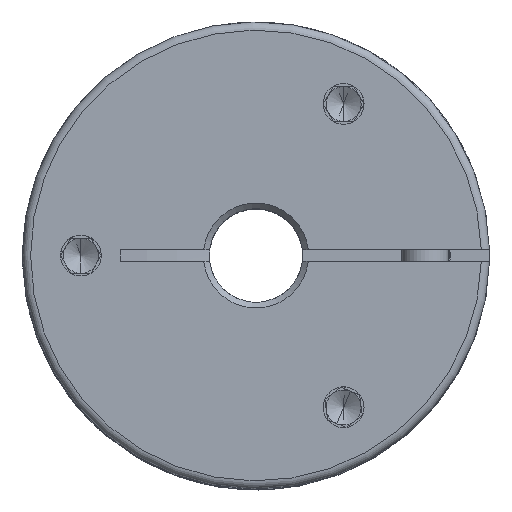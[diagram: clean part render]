
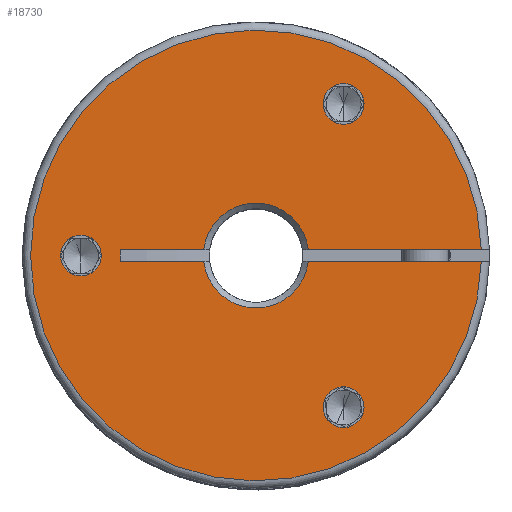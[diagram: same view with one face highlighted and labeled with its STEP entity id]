
A CAD part, top view. The second image highlights one B-rep face of the part: STEP entity #18730.
In plain terms, the highlighted planar face has unit normal (0, 0, 1).
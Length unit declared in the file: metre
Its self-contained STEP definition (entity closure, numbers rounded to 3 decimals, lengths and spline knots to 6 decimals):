
#302 = DIRECTION ( 'NONE',  ( 0., 0., 1. ) ) ;
#609 = AXIS2_PLACEMENT_3D ( 'NONE', #3647, #16326, #23895 ) ;
#954 = EDGE_LOOP ( 'NONE', ( #8934, #19574 ) ) ;
#1744 = EDGE_CURVE ( 'NONE', #8140, #3447, #25299, .T. ) ;
#1774 = DIRECTION ( 'NONE',  ( 1., 0., 0. ) ) ;
#1926 = CARTESIAN_POINT ( 'NONE',  ( -0.01325, 0., 0.02345 ) ) ;
#2192 = DIRECTION ( 'NONE',  ( -1., 0., 0. ) ) ;
#2355 = VERTEX_POINT ( 'NONE', #8456 ) ;
#2649 = DIRECTION ( 'NONE',  ( -1., 0., 0. ) ) ;
#2746 = VERTEX_POINT ( 'NONE', #23649 ) ;
#2786 = VERTEX_POINT ( 'NONE', #28739 ) ;
#2940 = AXIS2_PLACEMENT_3D ( 'NONE', #21262, #20936, #30941 ) ;
#2983 = VECTOR ( 'NONE', #2192, 1. ) ;
#3081 = CIRCLE ( 'NONE', #26603, 0.0045 ) ;
#3186 = EDGE_CURVE ( 'NONE', #7943, #3482, #5095, .T. ) ;
#3447 = VERTEX_POINT ( 'NONE', #11443 ) ;
#3482 = VERTEX_POINT ( 'NONE', #4003 ) ;
#3556 = LINE ( 'NONE', #11328, #10323 ) ;
#3647 = CARTESIAN_POINT ( 'NONE',  ( 0.0075, -0.01299, 0.02345 ) ) ;
#4003 = CARTESIAN_POINT ( 'NONE',  ( 0.00575, -0.01299, 0.02345 ) ) ;
#4384 = CARTESIAN_POINT ( 'NONE',  ( 0.0075, 0.01299, 0.02345 ) ) ;
#4411 = EDGE_CURVE ( 'NONE', #29296, #15603, #3081, .T. ) ;
#4452 = ORIENTED_EDGE ( 'NONE', *, *, #4411, .T. ) ;
#4559 = DIRECTION ( 'NONE',  ( 1., 0., 0. ) ) ;
#4791 = CARTESIAN_POINT ( 'NONE',  ( 0.019294, -0.0005, 0.02345 ) ) ;
#4950 = ORIENTED_EDGE ( 'NONE', *, *, #19128, .F. ) ;
#4965 = VERTEX_POINT ( 'NONE', #23643 ) ;
#5002 = CARTESIAN_POINT ( 'NONE',  ( 0., -0.0005, 0.02345 ) ) ;
#5095 = CIRCLE ( 'NONE', #19754, 0.00175 ) ;
#5338 = CARTESIAN_POINT ( 'NONE',  ( 0.0075, -0.01299, 0.02345 ) ) ;
#5628 = EDGE_LOOP ( 'NONE', ( #31149, #17919, #24567, #7050, #10383, #24160, #4452, #30849 ) ) ;
#6366 = EDGE_CURVE ( 'NONE', #12436, #2786, #24803, .T. ) ;
#7050 = ORIENTED_EDGE ( 'NONE', *, *, #19562, .T. ) ;
#7362 = FACE_BOUND ( 'NONE', #12864, .T. ) ;
#7892 = DIRECTION ( 'NONE',  ( 1., 0., 0. ) ) ;
#7943 = VERTEX_POINT ( 'NONE', #13023 ) ;
#8140 = VERTEX_POINT ( 'NONE', #4791 ) ;
#8456 = CARTESIAN_POINT ( 'NONE',  ( -0.011615, 0.0005, 0.02345 ) ) ;
#8934 = ORIENTED_EDGE ( 'NONE', *, *, #6366, .F. ) ;
#8968 = AXIS2_PLACEMENT_3D ( 'NONE', #16981, #29630, #14437 ) ;
#9124 = CARTESIAN_POINT ( 'NONE',  ( 0.019294, 0.0005, 0.02345 ) ) ;
#9671 = AXIS2_PLACEMENT_3D ( 'NONE', #30622, #302, #7892 ) ;
#10323 = VECTOR ( 'NONE', #23892, 1. ) ;
#10383 = ORIENTED_EDGE ( 'NONE', *, *, #24831, .F. ) ;
#10566 = FACE_OUTER_BOUND ( 'NONE', #5628, .T. ) ;
#10603 = DIRECTION ( 'NONE',  ( -1., 0., 0. ) ) ;
#10838 = VERTEX_POINT ( 'NONE', #13519 ) ;
#10945 = CIRCLE ( 'NONE', #2940, 0.00175 ) ;
#11174 = DIRECTION ( 'NONE',  ( -1., 0., 0. ) ) ;
#11328 = CARTESIAN_POINT ( 'NONE',  ( -0.011615, -0.0005, 0.02345 ) ) ;
#11443 = CARTESIAN_POINT ( 'NONE',  ( 0.004472, -0.0005, 0.02345 ) ) ;
#11654 = DIRECTION ( 'NONE',  ( 1., 0., 0. ) ) ;
#11749 = LINE ( 'NONE', #24984, #2983 ) ;
#12408 = CARTESIAN_POINT ( 'NONE',  ( 0.004472, 0.0005, 0.02345 ) ) ;
#12436 = VERTEX_POINT ( 'NONE', #22603 ) ;
#12775 = EDGE_CURVE ( 'NONE', #3447, #4965, #22576, .T. ) ;
#12864 = EDGE_LOOP ( 'NONE', ( #14036, #16463 ) ) ;
#13023 = CARTESIAN_POINT ( 'NONE',  ( 0.00925, -0.01299, 0.02345 ) ) ;
#13467 = CIRCLE ( 'NONE', #19324, 0.00175 ) ;
#13519 = CARTESIAN_POINT ( 'NONE',  ( -0.011615, -0.0005, 0.02345 ) ) ;
#14036 = ORIENTED_EDGE ( 'NONE', *, *, #24457, .F. ) ;
#14437 = DIRECTION ( 'NONE',  ( 1., 0., 0. ) ) ;
#14898 = AXIS2_PLACEMENT_3D ( 'NONE', #32624, #19916, #4559 ) ;
#14908 = PLANE ( 'NONE',  #14898 ) ;
#15440 = VERTEX_POINT ( 'NONE', #9124 ) ;
#15603 = VERTEX_POINT ( 'NONE', #12408 ) ;
#16326 = DIRECTION ( 'NONE',  ( 0., 0., 1. ) ) ;
#16463 = ORIENTED_EDGE ( 'NONE', *, *, #19017, .F. ) ;
#16981 = CARTESIAN_POINT ( 'NONE',  ( 0., 0., 0.02345 ) ) ;
#17681 = DIRECTION ( 'NONE',  ( 0., 0., 1. ) ) ;
#17919 = ORIENTED_EDGE ( 'NONE', *, *, #1744, .T. ) ;
#18730 = ADVANCED_FACE ( 'NONE', ( #7362, #30375, #31969, #10566 ), #14908, .T. ) ;
#18757 = CARTESIAN_POINT ( 'NONE',  ( 0., 0., 0.02345 ) ) ;
#18865 = EDGE_CURVE ( 'NONE', #29296, #2355, #11749, .T. ) ;
#19017 = EDGE_CURVE ( 'NONE', #2746, #25905, #10945, .T. ) ;
#19128 = EDGE_CURVE ( 'NONE', #3482, #7943, #29980, .T. ) ;
#19324 = AXIS2_PLACEMENT_3D ( 'NONE', #29655, #27654, #22578 ) ;
#19562 = EDGE_CURVE ( 'NONE', #4965, #10838, #27196, .T. ) ;
#19574 = ORIENTED_EDGE ( 'NONE', *, *, #23266, .F. ) ;
#19754 = AXIS2_PLACEMENT_3D ( 'NONE', #5338, #17681, #30293 ) ;
#19897 = VECTOR ( 'NONE', #10603, 1. ) ;
#19916 = DIRECTION ( 'NONE',  ( 0., 0., 1. ) ) ;
#20135 = EDGE_LOOP ( 'NONE', ( #23145, #4950 ) ) ;
#20508 = AXIS2_PLACEMENT_3D ( 'NONE', #4384, #22294, #1774 ) ;
#20936 = DIRECTION ( 'NONE',  ( 0., 0., 1. ) ) ;
#21262 = CARTESIAN_POINT ( 'NONE',  ( -0.015, 0., 0.02345 ) ) ;
#21967 = DIRECTION ( 'NONE',  ( 1., 0., 0. ) ) ;
#22294 = DIRECTION ( 'NONE',  ( 0., 0., 1. ) ) ;
#22576 = CIRCLE ( 'NONE', #8968, 0.0045 ) ;
#22578 = DIRECTION ( 'NONE',  ( 1., 0., 0. ) ) ;
#22603 = CARTESIAN_POINT ( 'NONE',  ( 0.00925, 0.01299, 0.02345 ) ) ;
#23145 = ORIENTED_EDGE ( 'NONE', *, *, #3186, .F. ) ;
#23266 = EDGE_CURVE ( 'NONE', #2786, #12436, #25478, .T. ) ;
#23608 = DIRECTION ( 'NONE',  ( 0., 0., -1. ) ) ;
#23643 = CARTESIAN_POINT ( 'NONE',  ( -0.004472, -0.0005, 0.02345 ) ) ;
#23649 = CARTESIAN_POINT ( 'NONE',  ( -0.01675, 0., 0.02345 ) ) ;
#23892 = DIRECTION ( 'NONE',  ( 0., -1., 0. ) ) ;
#23895 = DIRECTION ( 'NONE',  ( 1., 0., 0. ) ) ;
#24160 = ORIENTED_EDGE ( 'NONE', *, *, #18865, .F. ) ;
#24208 = DIRECTION ( 'NONE',  ( 0., 0., 1. ) ) ;
#24457 = EDGE_CURVE ( 'NONE', #25905, #2746, #13467, .T. ) ;
#24567 = ORIENTED_EDGE ( 'NONE', *, *, #12775, .T. ) ;
#24803 = CIRCLE ( 'NONE', #20508, 0.00175 ) ;
#24831 = EDGE_CURVE ( 'NONE', #2355, #10838, #3556, .T. ) ;
#24984 = CARTESIAN_POINT ( 'NONE',  ( 0., 0.0005, 0.02345 ) ) ;
#25299 = LINE ( 'NONE', #5002, #32019 ) ;
#25478 = CIRCLE ( 'NONE', #9671, 0.00175 ) ;
#25899 = CIRCLE ( 'NONE', #26471, 0.0193 ) ;
#25905 = VERTEX_POINT ( 'NONE', #1926 ) ;
#26471 = AXIS2_PLACEMENT_3D ( 'NONE', #18757, #24208, #11654 ) ;
#26603 = AXIS2_PLACEMENT_3D ( 'NONE', #27018, #23608, #21967 ) ;
#26629 = LINE ( 'NONE', #31095, #19897 ) ;
#27018 = CARTESIAN_POINT ( 'NONE',  ( 0., 0., 0.02345 ) ) ;
#27196 = LINE ( 'NONE', #31337, #31137 ) ;
#27654 = DIRECTION ( 'NONE',  ( 0., 0., 1. ) ) ;
#28739 = CARTESIAN_POINT ( 'NONE',  ( 0.00575, 0.01299, 0.02345 ) ) ;
#29296 = VERTEX_POINT ( 'NONE', #32724 ) ;
#29517 = EDGE_CURVE ( 'NONE', #15440, #8140, #25899, .T. ) ;
#29630 = DIRECTION ( 'NONE',  ( 0., 0., -1. ) ) ;
#29655 = CARTESIAN_POINT ( 'NONE',  ( -0.015, 0., 0.02345 ) ) ;
#29980 = CIRCLE ( 'NONE', #609, 0.00175 ) ;
#30293 = DIRECTION ( 'NONE',  ( 1., 0., 0. ) ) ;
#30375 = FACE_BOUND ( 'NONE', #954, .T. ) ;
#30622 = CARTESIAN_POINT ( 'NONE',  ( 0.0075, 0.01299, 0.02345 ) ) ;
#30849 = ORIENTED_EDGE ( 'NONE', *, *, #32437, .F. ) ;
#30941 = DIRECTION ( 'NONE',  ( 1., 0., 0. ) ) ;
#31095 = CARTESIAN_POINT ( 'NONE',  ( 0., 0.0005, 0.02345 ) ) ;
#31137 = VECTOR ( 'NONE', #11174, 1. ) ;
#31149 = ORIENTED_EDGE ( 'NONE', *, *, #29517, .T. ) ;
#31337 = CARTESIAN_POINT ( 'NONE',  ( 0., -0.0005, 0.02345 ) ) ;
#31969 = FACE_BOUND ( 'NONE', #20135, .T. ) ;
#32019 = VECTOR ( 'NONE', #2649, 1. ) ;
#32437 = EDGE_CURVE ( 'NONE', #15440, #15603, #26629, .T. ) ;
#32624 = CARTESIAN_POINT ( 'NONE',  ( 0., 0., 0.02345 ) ) ;
#32724 = CARTESIAN_POINT ( 'NONE',  ( -0.004472, 0.0005, 0.02345 ) ) ;
